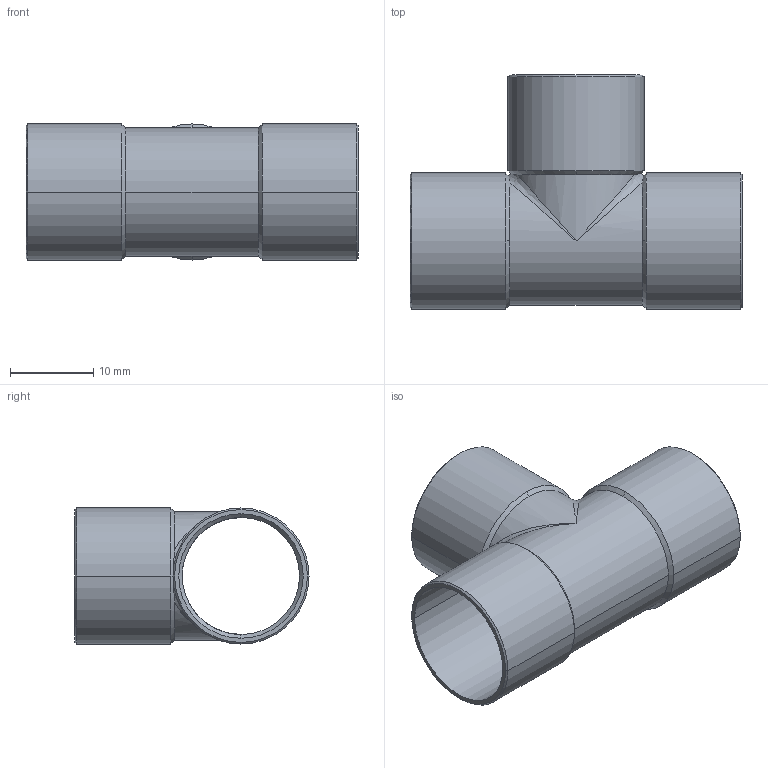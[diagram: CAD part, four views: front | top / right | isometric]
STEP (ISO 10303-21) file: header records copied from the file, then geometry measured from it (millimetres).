
FILE_DESCRIPTION((''),'2;1');
FILE_NAME('P:\Bouwmaten\z-maattekeningen 3D\5000\5130\d\513015.stp','2005-10-19T08:43:30',('Kris'),(''),'Autodesk Inventor 8','Autodesk Inventor 8','');
FILE_SCHEMA(('AUTOMOTIVE_DESIGN { 1 0 10303 214 1 1 1 1 }'));
Length unit declared in the file: millimetre
Products named in the file (1): 513015
Bounding box: 40 x 28.2 x 16.4 mm (x, y, z)
Volume: 1723.5 mm3; surface area: 5016.8 mm2
Topology: 1 solids, 1 shells, 45 faces, 130 edges, 78 vertices
Faces by surface type: cylinder 20, cone 18, bspline 4, plane 3
Entity records: 1953 total; most frequent: CARTESIAN_POINT 738, DIRECTION 280, ORIENTED_EDGE 244, AXIS2_PLACEMENT_3D 124, EDGE_CURVE 122, VERTEX_POINT 78, CIRCLE 66, EDGE_LOOP 48
